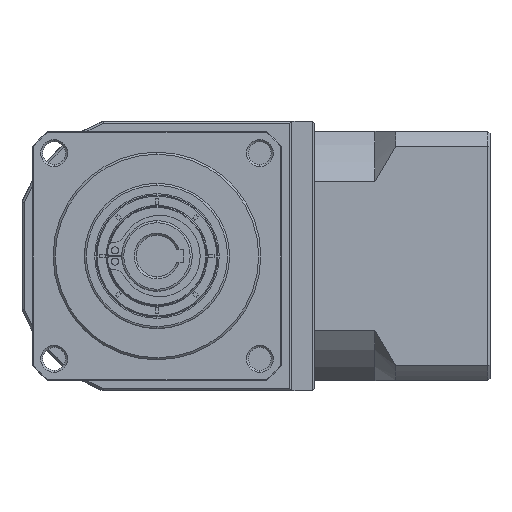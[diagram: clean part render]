
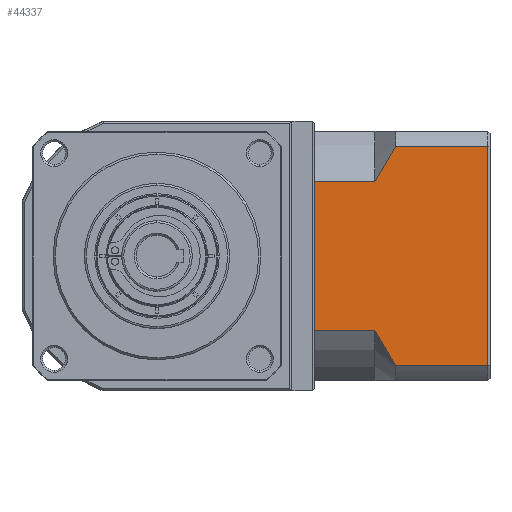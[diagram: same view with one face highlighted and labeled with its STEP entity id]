
A CAD part, left-side view. The second image highlights one B-rep face of the part: STEP entity #44337.
In plain terms, the highlighted planar face has unit normal (-1, 0, 0).
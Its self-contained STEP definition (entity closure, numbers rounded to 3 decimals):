
#10666 = LINE ( 'NONE', #149625, #38426 ) ;
#11410 = CARTESIAN_POINT ( 'NONE',  ( -17.243, -84.723, -139.713 ) ) ;
#13325 = DIRECTION ( 'NONE',  ( 0., 0., 1. ) ) ;
#13537 = VERTEX_POINT ( 'NONE', #22572 ) ;
#16008 = EDGE_CURVE ( 'NONE', #13537, #151448, #10666, .T. ) ;
#17906 = CARTESIAN_POINT ( 'NONE',  ( -17.243, -89.723, -95.228 ) ) ;
#18407 = CARTESIAN_POINT ( 'NONE',  ( -17.243, -84.723, -139.713 ) ) ;
#22572 = CARTESIAN_POINT ( 'NONE',  ( -17.243, -70.223, -103.657 ) ) ;
#23147 = CARTESIAN_POINT ( 'NONE',  ( -17.243, -84.723, -148.143 ) ) ;
#25205 = CARTESIAN_POINT ( 'NONE',  ( -17.243, -111.923, -151.685 ) ) ;
#26821 = CARTESIAN_POINT ( 'NONE',  ( -17.243, -89.723, -148.143 ) ) ;
#28807 = CARTESIAN_POINT ( 'NONE',  ( -17.243, -111.923, -148.143 ) ) ;
#29837 = CARTESIAN_POINT ( 'NONE',  ( -17.243, -87.95, -97.966 ) ) ;
#30344 = CARTESIAN_POINT ( 'NONE',  ( -17.243, -86.274, -142.595 ) ) ;
#34390 = VERTEX_POINT ( 'NONE', #150777 ) ;
#35926 = CARTESIAN_POINT ( 'NONE',  ( -17.243, -84.723, -95.228 ) ) ;
#38059 = LINE ( 'NONE', #152155, #129086 ) ;
#38426 = VECTOR ( 'NONE', #137714, 1000. ) ;
#40822 = CARTESIAN_POINT ( 'NONE',  ( -17.243, -112.423, -151.685 ) ) ;
#41150 = VERTEX_POINT ( 'NONE', #26821 ) ;
#41776 = CARTESIAN_POINT ( 'NONE',  ( -17.243, -85.471, -102.205 ) ) ;
#41964 = VERTEX_POINT ( 'NONE', #130495 ) ;
#42272 = CARTESIAN_POINT ( 'NONE',  ( -17.243, -88.822, -146.78 ) ) ;
#44337 = ADVANCED_FACE ( 'NONE', ( #118282 ), #147207, .F. ) ;
#45144 = LINE ( 'NONE', #23147, #104669 ) ;
#46178 = CARTESIAN_POINT ( 'NONE',  ( -17.243, -111.923, -95.228 ) ) ;
#49409 = B_SPLINE_CURVE_WITH_KNOTS ( 'NONE', 3,
 ( #18407, #89651, #30344, #113447, #42272, #125320 ),
 .UNSPECIFIED., .F., .F.,
 ( 4, 2, 4 ),
 ( 0.1, 0.104, 0.109 ),
 .UNSPECIFIED. ) ;
#50913 = ORIENTED_EDGE ( 'NONE', *, *, #127388, .F. ) ;
#52742 = DIRECTION ( 'NONE',  ( 0., 1., 0. ) ) ;
#56514 = VECTOR ( 'NONE', #135133, 1000. ) ;
#60801 = EDGE_CURVE ( 'NONE', #41964, #34390, #90622, .T. ) ;
#61687 = VERTEX_POINT ( 'NONE', #46178 ) ;
#63474 = ORIENTED_EDGE ( 'NONE', *, *, #149209, .T. ) ;
#69738 = ORIENTED_EDGE ( 'NONE', *, *, #74718, .F. ) ;
#74718 = EDGE_CURVE ( 'NONE', #106603, #151448, #38059, .T. ) ;
#81118 = DIRECTION ( 'NONE',  ( 0., 1., 0. ) ) ;
#84456 = DIRECTION ( 'NONE',  ( 0., 1., 0. ) ) ;
#86137 = AXIS2_PLACEMENT_3D ( 'NONE', #40822, #123895, #52742 ) ;
#89651 = CARTESIAN_POINT ( 'NONE',  ( -17.243, -85.473, -141.169 ) ) ;
#90622 = B_SPLINE_CURVE_WITH_KNOTS ( 'NONE', 3,
 ( #17906, #101092, #29837, #112950, #41776, #124843 ),
 .UNSPECIFIED., .F., .F.,
 ( 4, 2, 4 ),
 ( 0.052, 0.057, 0.062 ),
 .UNSPECIFIED. ) ;
#101092 = CARTESIAN_POINT ( 'NONE',  ( -17.243, -88.823, -96.588 ) ) ;
#104669 = VECTOR ( 'NONE', #84456, 1000. ) ;
#106603 = VERTEX_POINT ( 'NONE', #11410 ) ;
#106708 = ORIENTED_EDGE ( 'NONE', *, *, #145298, .T. ) ;
#112950 = CARTESIAN_POINT ( 'NONE',  ( -17.243, -86.274, -100.774 ) ) ;
#113447 = CARTESIAN_POINT ( 'NONE',  ( -17.243, -87.948, -145.4 ) ) ;
#117963 = DIRECTION ( 'NONE',  ( 0., -1., 0. ) ) ;
#118282 = FACE_OUTER_BOUND ( 'NONE', #149673, .T. ) ;
#118607 = VERTEX_POINT ( 'NONE', #28807 ) ;
#121996 = ORIENTED_EDGE ( 'NONE', *, *, #148276, .F. ) ;
#123196 = CARTESIAN_POINT ( 'NONE',  ( -17.243, -84.723, -103.657 ) ) ;
#123895 = DIRECTION ( 'NONE',  ( 1., 0., 0. ) ) ;
#124843 = CARTESIAN_POINT ( 'NONE',  ( -17.243, -84.723, -103.657 ) ) ;
#125320 = CARTESIAN_POINT ( 'NONE',  ( -17.243, -89.723, -148.143 ) ) ;
#126889 = ORIENTED_EDGE ( 'NONE', *, *, #150346, .F. ) ;
#127388 = EDGE_CURVE ( 'NONE', #13537, #34390, #151178, .T. ) ;
#127706 = ORIENTED_EDGE ( 'NONE', *, *, #16008, .T. ) ;
#129086 = VECTOR ( 'NONE', #81118, 1000. ) ;
#130495 = CARTESIAN_POINT ( 'NONE',  ( -17.243, -89.723, -95.228 ) ) ;
#130716 = VECTOR ( 'NONE', #13325, 1000. ) ;
#132506 = VECTOR ( 'NONE', #117963, 1000. ) ;
#134442 = LINE ( 'NONE', #25205, #130716 ) ;
#135133 = DIRECTION ( 'NONE',  ( 0., -1., 0. ) ) ;
#137714 = DIRECTION ( 'NONE',  ( 0., 0., -1. ) ) ;
#139881 = LINE ( 'NONE', #35926, #132506 ) ;
#144180 = ORIENTED_EDGE ( 'NONE', *, *, #60801, .T. ) ;
#145298 = EDGE_CURVE ( 'NONE', #118607, #61687, #134442, .T. ) ;
#147207 = PLANE ( 'NONE',  #86137 ) ;
#148276 = EDGE_CURVE ( 'NONE', #41964, #61687, #139881, .T. ) ;
#149209 = EDGE_CURVE ( 'NONE', #106603, #41150, #49409, .T. ) ;
#149625 = CARTESIAN_POINT ( 'NONE',  ( -17.243, -70.223, -151.685 ) ) ;
#149673 = EDGE_LOOP ( 'NONE', ( #126889, #106708, #121996, #144180, #50913, #127706, #69738, #63474 ) ) ;
#150346 = EDGE_CURVE ( 'NONE', #118607, #41150, #45144, .T. ) ;
#150777 = CARTESIAN_POINT ( 'NONE',  ( -17.243, -84.723, -103.657 ) ) ;
#151178 = LINE ( 'NONE', #123196, #56514 ) ;
#151448 = VERTEX_POINT ( 'NONE', #154014 ) ;
#152155 = CARTESIAN_POINT ( 'NONE',  ( -17.243, -84.723, -139.713 ) ) ;
#154014 = CARTESIAN_POINT ( 'NONE',  ( -17.243, -70.223, -139.713 ) ) ;
